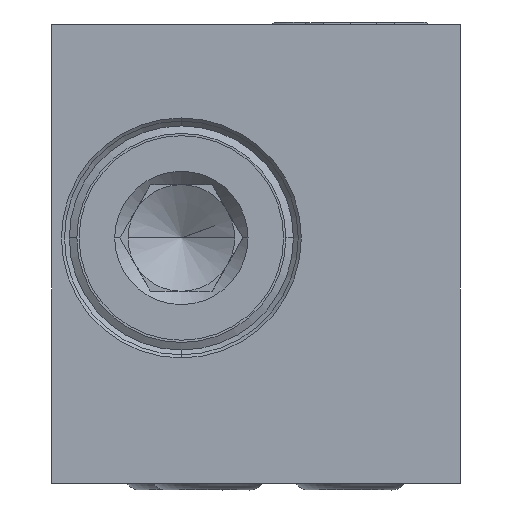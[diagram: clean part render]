
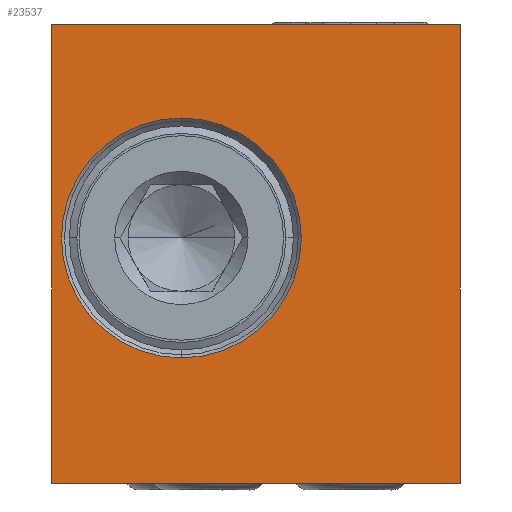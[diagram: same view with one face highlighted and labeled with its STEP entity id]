
A CAD part, left-side view. The second image highlights one B-rep face of the part: STEP entity #23537.
In plain terms, the highlighted planar face has unit normal (-1, 0, 0).
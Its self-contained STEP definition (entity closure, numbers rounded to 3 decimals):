
#4389=DIRECTION('',(0.,0.,1.));
#4390=VECTOR('',#4389,25.8);
#4391=CARTESIAN_POINT('',(-38.,11.5,-12.9));
#4392=LINE('',#4391,#4390);
#4393=DIRECTION('',(0.,-1.,0.));
#4394=VECTOR('',#4393,23.);
#4395=CARTESIAN_POINT('',(-38.,11.5,12.9));
#4396=LINE('',#4395,#4394);
#4397=DIRECTION('',(0.,0.,-1.));
#4398=VECTOR('',#4397,25.8);
#4399=CARTESIAN_POINT('',(-38.,-11.5,12.9));
#4400=LINE('',#4399,#4398);
#4401=DIRECTION('',(0.,1.,0.));
#4402=VECTOR('',#4401,23.);
#4403=CARTESIAN_POINT('',(-38.,-11.5,-12.9));
#4404=LINE('',#4403,#4402);
#4405=CARTESIAN_POINT('',(-38.,4.2,0.9));
#4406=DIRECTION('',(-1.,0.,0.));
#4407=DIRECTION('',(0.,0.,-1.));
#4408=AXIS2_PLACEMENT_3D('',#4405,#4406,#4407);
#4410=CARTESIAN_POINT('',(-38.,4.2,0.9));
#4411=DIRECTION('',(-1.,0.,0.));
#4412=DIRECTION('',(0.,0.,1.));
#4413=AXIS2_PLACEMENT_3D('',#4410,#4411,#4412);
#16075=CARTESIAN_POINT('',(-38.,11.5,12.9));
#16076=VERTEX_POINT('',#16075);
#16077=CARTESIAN_POINT('',(-38.,11.5,-12.9));
#16078=VERTEX_POINT('',#16077);
#16079=CARTESIAN_POINT('',(-38.,-11.5,12.9));
#16080=VERTEX_POINT('',#16079);
#16101=CARTESIAN_POINT('',(-38.,-11.5,-12.9));
#16102=VERTEX_POINT('',#16101);
#16147=CARTESIAN_POINT('',(-38.,4.2,-5.85));
#16148=CARTESIAN_POINT('',(-38.,4.2,7.65));
#16149=VERTEX_POINT('',#16147);
#16150=VERTEX_POINT('',#16148);
#23518=CARTESIAN_POINT('',(-38.,0.,0.));
#23519=DIRECTION('',(-1.,0.,0.));
#23520=DIRECTION('',(0.,-1.,0.));
#23521=AXIS2_PLACEMENT_3D('',#23518,#23519,#23520);
#23522=PLANE('',#23521);
#23523=ORIENTED_EDGE('',*,*,#23511,.T.);
#23524=ORIENTED_EDGE('',*,*,#21091,.T.);
#23526=ORIENTED_EDGE('',*,*,#23525,.T.);
#23528=ORIENTED_EDGE('',*,*,#23527,.T.);
#23529=EDGE_LOOP('',(#23523,#23524,#23526,#23528));
#23530=FACE_OUTER_BOUND('',#23529,.F.);
#23532=ORIENTED_EDGE('',*,*,#23531,.T.);
#23534=ORIENTED_EDGE('',*,*,#23533,.T.);
#23535=EDGE_LOOP('',(#23532,#23534));
#23536=FACE_BOUND('',#23535,.F.);
#23537=ADVANCED_FACE('',(#23530,#23536),#23522,.T.);
#4409=CIRCLE('',#4408,6.75);
#4414=CIRCLE('',#4413,6.75);
#21091=EDGE_CURVE('',#16076,#16080,#4396,.T.);
#23511=EDGE_CURVE('',#16078,#16076,#4392,.T.);
#23525=EDGE_CURVE('',#16080,#16102,#4400,.T.);
#23527=EDGE_CURVE('',#16102,#16078,#4404,.T.);
#23531=EDGE_CURVE('',#16149,#16150,#4409,.T.);
#23533=EDGE_CURVE('',#16150,#16149,#4414,.T.);
